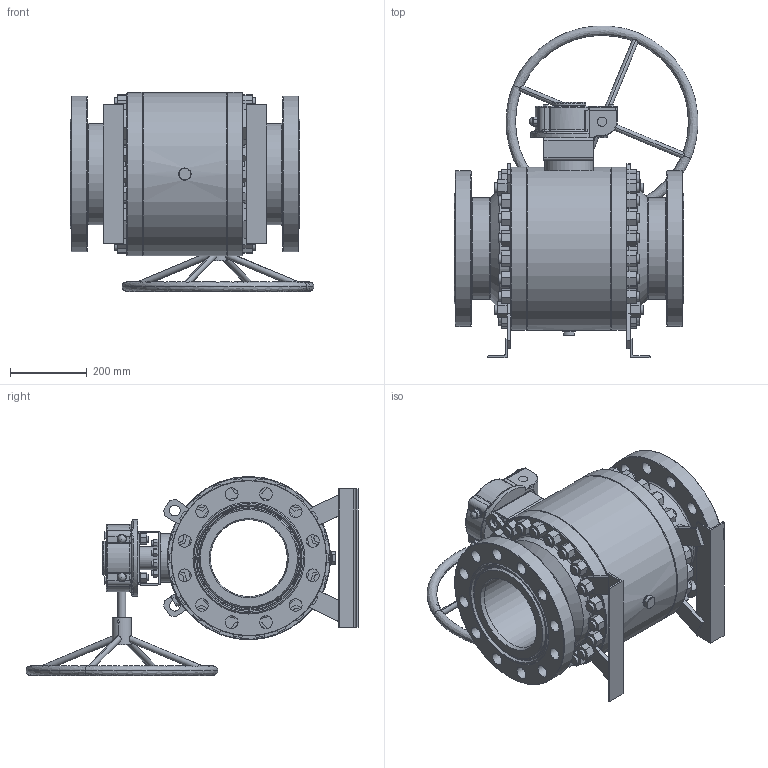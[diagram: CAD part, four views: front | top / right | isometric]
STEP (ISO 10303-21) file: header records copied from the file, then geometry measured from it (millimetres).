
FILE_DESCRIPTION(('STEP AP214'), '1');
FILE_NAME('ÀÐÏ.200.063.27-Ð Êðàí', '2016-08-16T12:02:22', (''), (''), 'ASCON STEP Converter 1.3', 'ASCON Math Kernel', '');
FILE_SCHEMA(('AUTOMOTIVE_DESIGN { 1 0 10303 214 3 1 1}'));
Length unit declared in the file: millimetre
Products named in the file (1): 3
Bounding box: 633.89 x 863.81 x 518 mm (x, y, z)
Volume: 750456.5 mm3; surface area: 2550245.3 mm2
Topology: 36 solids, 37 shells, 1989 faces, 4982 edges, 3172 vertices
Faces by surface type: plane 1066, cylinder 437, cone 223, torus 173, bspline 56, sphere 34
Full cylindrical faces by diameter (mm): 4.134 x2, 4.2 x2, 6 x1, 6.647 x4, 8 x4, 9 x4, 10.106 x8, 12 x2, 13 x8, 16 x5, 17.294 x8, 18 x8, 20 x2, 22 x2, 23.75 x2, 24 x51, 26 x2, 27 x2, 28 x2, 30 x2, 32 x2, 33 x24, 43 x1, 60 x1, 72.15 x2, 74 x2, 75 x4, 79 x1, 86 x1, 88 x1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
Entity records: 90826 total; most frequent: CARTESIAN_POINT 44619, ORIENTED_EDGE 9854, DIRECTION 9044, EDGE_CURVE 4930, AXIS2_PLACEMENT_3D 3233, VERTEX_POINT 3172, LINE 2578, VECTOR 2578
